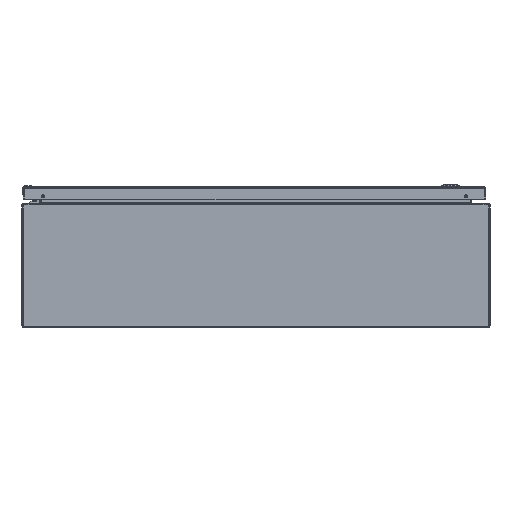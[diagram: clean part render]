
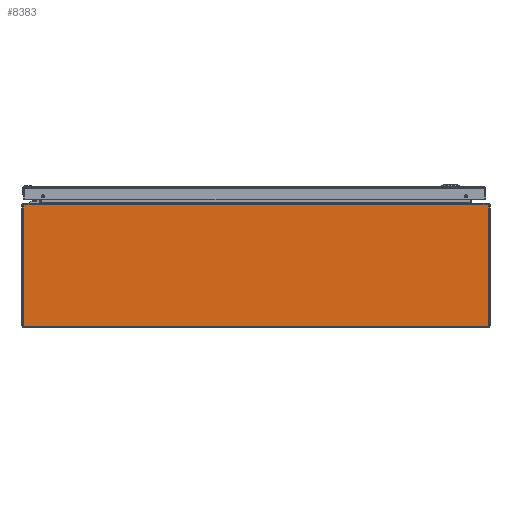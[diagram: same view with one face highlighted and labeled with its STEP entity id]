
A CAD part, front view. The second image highlights one B-rep face of the part: STEP entity #8383.
In plain terms, the highlighted planar face has unit normal (0, -1, 0).
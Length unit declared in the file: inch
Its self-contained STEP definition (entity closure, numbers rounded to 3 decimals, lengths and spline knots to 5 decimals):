
#7486=CARTESIAN_POINT('',(14.887,0.,3.897));
#7487=DIRECTION('',(0.,-1.,0.));
#7488=DIRECTION('',(1.,0.,0.));
#7489=AXIS2_PLACEMENT_3D('',#7486,#7487,#7488);
#7494=DIRECTION('',(0.,0.,-1.));
#7495=VECTOR('',#7494,7.764);
#7496=CARTESIAN_POINT('',(14.967,0.,3.897));
#7497=LINE('',#7496,#7495);
#7501=CARTESIAN_POINT('',(14.887,0.,-3.867));
#7502=DIRECTION('',(0.,-1.,0.));
#7503=DIRECTION('',(0.,0.,-1.));
#7504=AXIS2_PLACEMENT_3D('',#7501,#7502,#7503);
#7509=CARTESIAN_POINT('',(-14.887,0.,-3.867));
#7510=DIRECTION('',(0.,-1.,0.));
#7511=DIRECTION('',(-1.,0.,0.));
#7512=AXIS2_PLACEMENT_3D('',#7509,#7510,#7511);
#7517=DIRECTION('',(0.,0.,1.));
#7518=VECTOR('',#7517,7.764);
#7519=CARTESIAN_POINT('',(-14.967,0.,-3.867));
#7520=LINE('',#7519,#7518);
#7524=CARTESIAN_POINT('',(-14.887,0.,3.897));
#7525=DIRECTION('',(0.,-1.,0.));
#7526=DIRECTION('',(0.,0.,1.));
#7527=AXIS2_PLACEMENT_3D('',#7524,#7525,#7526);
#7539=DIRECTION('',(-1.,0.,0.));
#7540=VECTOR('',#7539,1.062);
#7541=CARTESIAN_POINT('',(14.887,0.,3.977));
#7542=LINE('',#7541,#7540);
#7567=DIRECTION('',(0.,0.,-1.));
#7568=VECTOR('',#7567,0.094);
#7569=CARTESIAN_POINT('',(13.825,0.,3.977));
#7570=LINE('',#7569,#7568);
#7710=DIRECTION('',(1.,0.,0.));
#7711=VECTOR('',#7710,27.65);
#7712=CARTESIAN_POINT('',(-13.825,0.,3.883));
#7713=LINE('',#7712,#7711);
#7754=DIRECTION('',(0.,0.,1.));
#7755=VECTOR('',#7754,0.094);
#7756=CARTESIAN_POINT('',(-13.825,0.,3.883));
#7757=LINE('',#7756,#7755);
#7789=DIRECTION('',(-1.,0.,0.));
#7790=VECTOR('',#7789,1.062);
#7791=CARTESIAN_POINT('',(-13.825,0.,3.977));
#7792=LINE('',#7791,#7790);
#7831=DIRECTION('',(1.,0.,0.));
#7832=VECTOR('',#7831,29.774);
#7833=CARTESIAN_POINT('',(-14.887,0.,-3.947));
#7834=LINE('',#7833,#7832);
#8236=CARTESIAN_POINT('',(-13.825,0.,3.883));
#8237=CARTESIAN_POINT('',(13.825,0.,3.883));
#8238=VERTEX_POINT('',#8236);
#8239=VERTEX_POINT('',#8237);
#8312=CARTESIAN_POINT('',(13.825,0.,3.977));
#8314=VERTEX_POINT('',#8312);
#8316=CARTESIAN_POINT('',(-13.825,0.,3.977));
#8318=VERTEX_POINT('',#8316);
#8320=CARTESIAN_POINT('',(14.967,0.,3.897));
#8321=CARTESIAN_POINT('',(14.887,0.,3.977));
#8322=VERTEX_POINT('',#8320);
#8323=VERTEX_POINT('',#8321);
#8328=CARTESIAN_POINT('',(14.887,0.,-3.947));
#8329=CARTESIAN_POINT('',(14.967,0.,-3.867));
#8330=VERTEX_POINT('',#8328);
#8331=VERTEX_POINT('',#8329);
#8336=CARTESIAN_POINT('',(-14.967,0.,-3.867));
#8337=CARTESIAN_POINT('',(-14.887,0.,-3.947));
#8338=VERTEX_POINT('',#8336);
#8339=VERTEX_POINT('',#8337);
#8344=CARTESIAN_POINT('',(-14.887,0.,3.977));
#8345=CARTESIAN_POINT('',(-14.967,0.,3.897));
#8346=VERTEX_POINT('',#8344);
#8347=VERTEX_POINT('',#8345);
#8352=CARTESIAN_POINT('',(0.,0.,0.));
#8353=DIRECTION('',(0.,-1.,0.));
#8354=DIRECTION('',(-1.,0.,0.));
#8355=AXIS2_PLACEMENT_3D('',#8352,#8353,#8354);
#8356=PLANE('',#8355);
#8358=ORIENTED_EDGE('',*,*,#8357,.F.);
#8360=ORIENTED_EDGE('',*,*,#8359,.T.);
#8362=ORIENTED_EDGE('',*,*,#8361,.F.);
#8364=ORIENTED_EDGE('',*,*,#8363,.F.);
#8366=ORIENTED_EDGE('',*,*,#8365,.F.);
#8368=ORIENTED_EDGE('',*,*,#8367,.T.);
#8370=ORIENTED_EDGE('',*,*,#8369,.F.);
#8372=ORIENTED_EDGE('',*,*,#8371,.F.);
#8374=ORIENTED_EDGE('',*,*,#8373,.F.);
#8376=ORIENTED_EDGE('',*,*,#8375,.T.);
#8378=ORIENTED_EDGE('',*,*,#8377,.F.);
#8380=ORIENTED_EDGE('',*,*,#8379,.F.);
#8381=EDGE_LOOP('',(#8358,#8360,#8362,#8364,#8366,#8368,#8370,#8372,#8374,#8376,
#8378,#8380));
#8382=FACE_OUTER_BOUND('',#8381,.F.);
#7490=CIRCLE('',#7489,0.08);
#7505=CIRCLE('',#7504,0.08);
#7513=CIRCLE('',#7512,0.08);
#7528=CIRCLE('',#7527,0.08);
#8357=EDGE_CURVE('',#8322,#8323,#7490,.T.);
#8359=EDGE_CURVE('',#8322,#8331,#7497,.T.);
#8361=EDGE_CURVE('',#8330,#8331,#7505,.T.);
#8363=EDGE_CURVE('',#8339,#8330,#7834,.T.);
#8365=EDGE_CURVE('',#8338,#8339,#7513,.T.);
#8367=EDGE_CURVE('',#8338,#8347,#7520,.T.);
#8369=EDGE_CURVE('',#8346,#8347,#7528,.T.);
#8371=EDGE_CURVE('',#8318,#8346,#7792,.T.);
#8373=EDGE_CURVE('',#8238,#8318,#7757,.T.);
#8375=EDGE_CURVE('',#8238,#8239,#7713,.T.);
#8377=EDGE_CURVE('',#8314,#8239,#7570,.T.);
#8379=EDGE_CURVE('',#8323,#8314,#7542,.T.);
#8383=ADVANCED_FACE('',(#8382),#8356,.T.);
